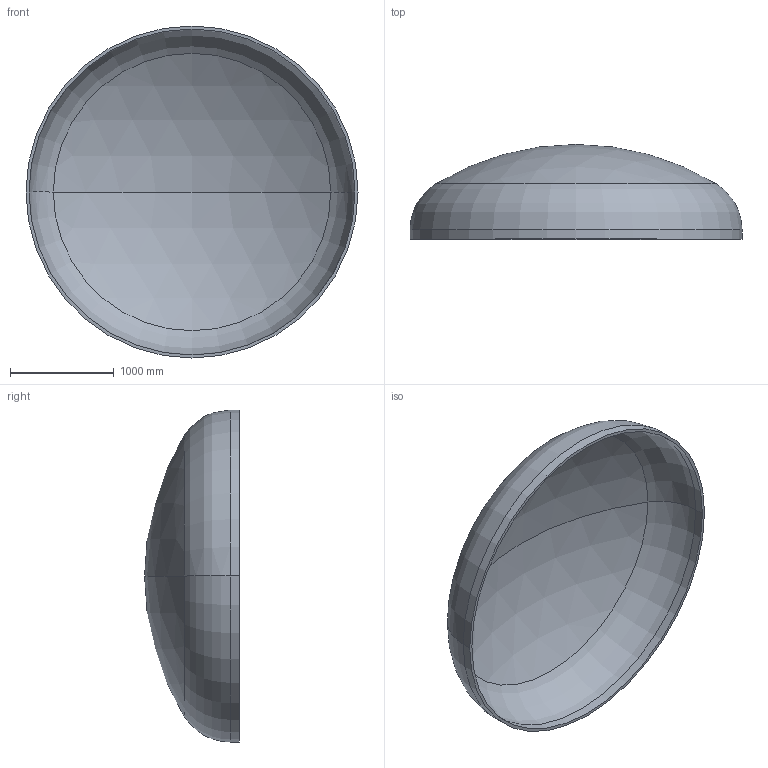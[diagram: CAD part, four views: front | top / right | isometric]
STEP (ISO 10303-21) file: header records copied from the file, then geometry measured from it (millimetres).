
FILE_DESCRIPTION (( 'STEP AP203' ), '1' );
FILE_NAME ('DIN 28013 Korbbogenform_-_Boden DIN 28013 - 3200 x 90 - I - s=29.step', '2016-07-01T18:29:35', ( '' ), ( '' ), 'SwSTEP 2.0', 'SolidWorks 2013', '' );
FILE_SCHEMA (( 'CONFIG_CONTROL_DESIGN' ));
Length unit declared in the file: millimetre
Products named in the file (1): DIN 28013 Korbbogenform_-_Boden DIN 28013 - 3200 x 90 - I - s=29
Bounding box: 3200 x 913.68 x 3200 mm (x, y, z)
Volume: 344820757.8 mm3; surface area: 24071392.1 mm2
Topology: 1 solids, 1 shells, 13 faces, 24 edges, 14 vertices
Faces by surface type: torus 4, cylinder 4, sphere 4, plane 1
Entity records: 407 total; most frequent: DIRECTION 72, CARTESIAN_POINT 52, ORIENTED_EDGE 48, AXIS2_PLACEMENT_3D 34, EDGE_CURVE 24, CIRCLE 20, EDGE_LOOP 14, VERTEX_POINT 14
